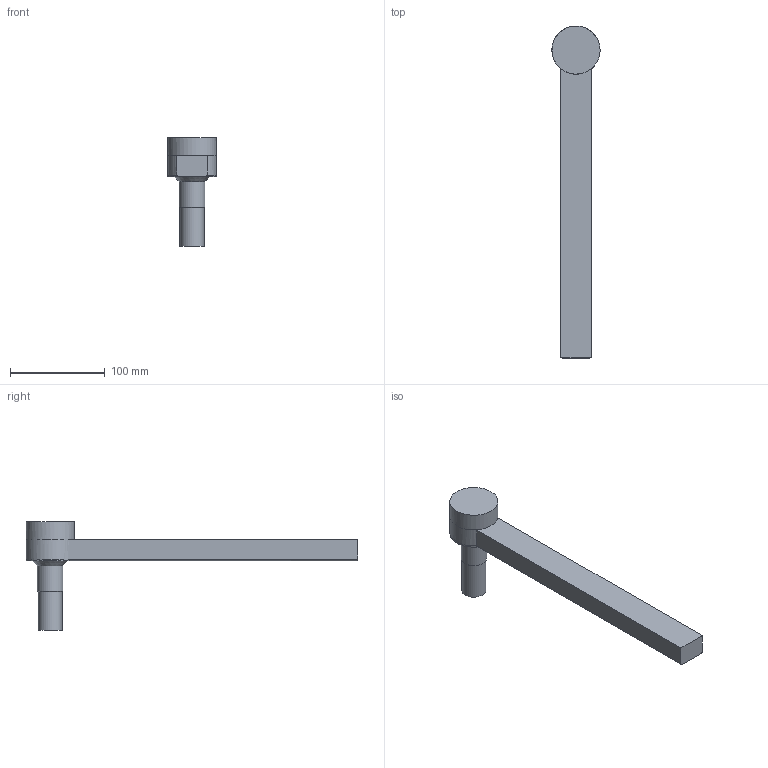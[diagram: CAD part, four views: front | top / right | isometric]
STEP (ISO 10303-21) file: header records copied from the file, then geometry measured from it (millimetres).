
FILE_DESCRIPTION(/* description */ (''),/* implementation_level */ '2;1');
FILE_NAME(/* name */ 'B0493TRUPas.stp',/* time_stamp */ '2019-10-02T15:58:45-04:00',/* author */ (''),/* organization */ (''),/* preprocessor_version */ 'ST-DEVELOPER v16',/* originating_system */ 'SIEMENS PLM Software NX 11.0',/* authorisation */ '');
FILE_SCHEMA (('AUTOMOTIVE_DESIGN { 1 0 10303 214 3 1 1 1 }'));
Length unit declared in the file: inch
Products named in the file (3): B04XX_SubSolid; B0493TRUPd; B0493TRUPas
Assembly tree (2 placements, depth 2):
  B0493TRUPas
    B0493TRUPd
    B04XX_SubSolid
Bounding box: 50.91 x 350.87 x 115.09 mm (x, y, z)
Volume: 409440 mm3; surface area: 65202.4 mm2
Topology: 2 solids, 3 shells, 34 faces, 72 edges, 45 vertices
Faces by surface type: plane 13, cylinder 10, cone 6, torus 3, sphere 1, revolution 1
Full cylindrical faces by diameter (mm): 8.731 x2, 25.4 x2, 26.987 x1, 50.927 x1
Entity records: 874 total; most frequent: CARTESIAN_POINT 167, DIRECTION 142, ORIENTED_EDGE 96, AXIS2_PLACEMENT_3D 62, EDGE_LOOP 54, EDGE_CURVE 48, FACE_BOUND 45, VERTEX_POINT 40
